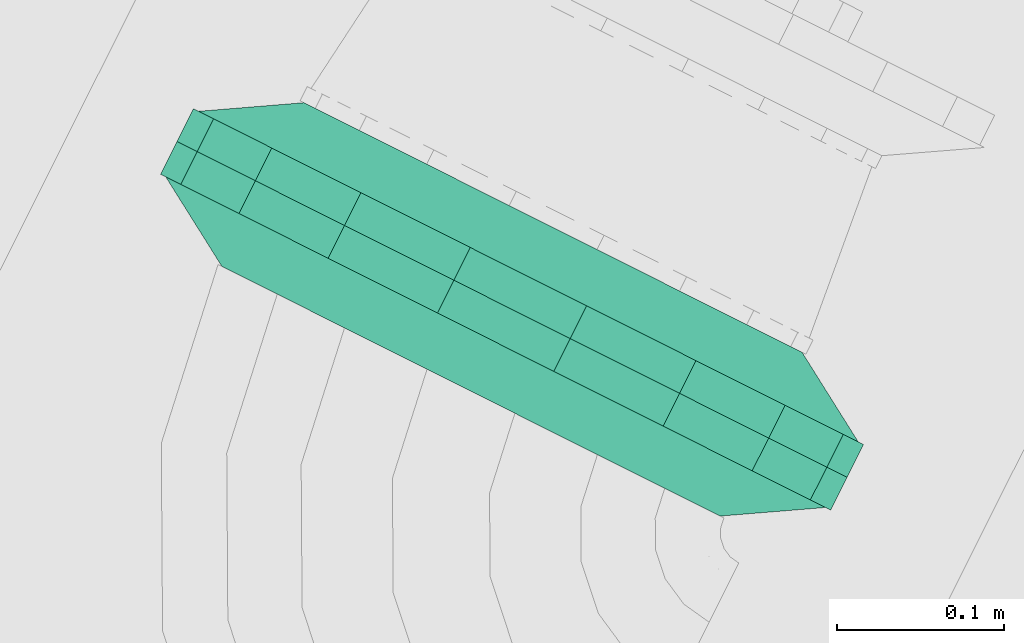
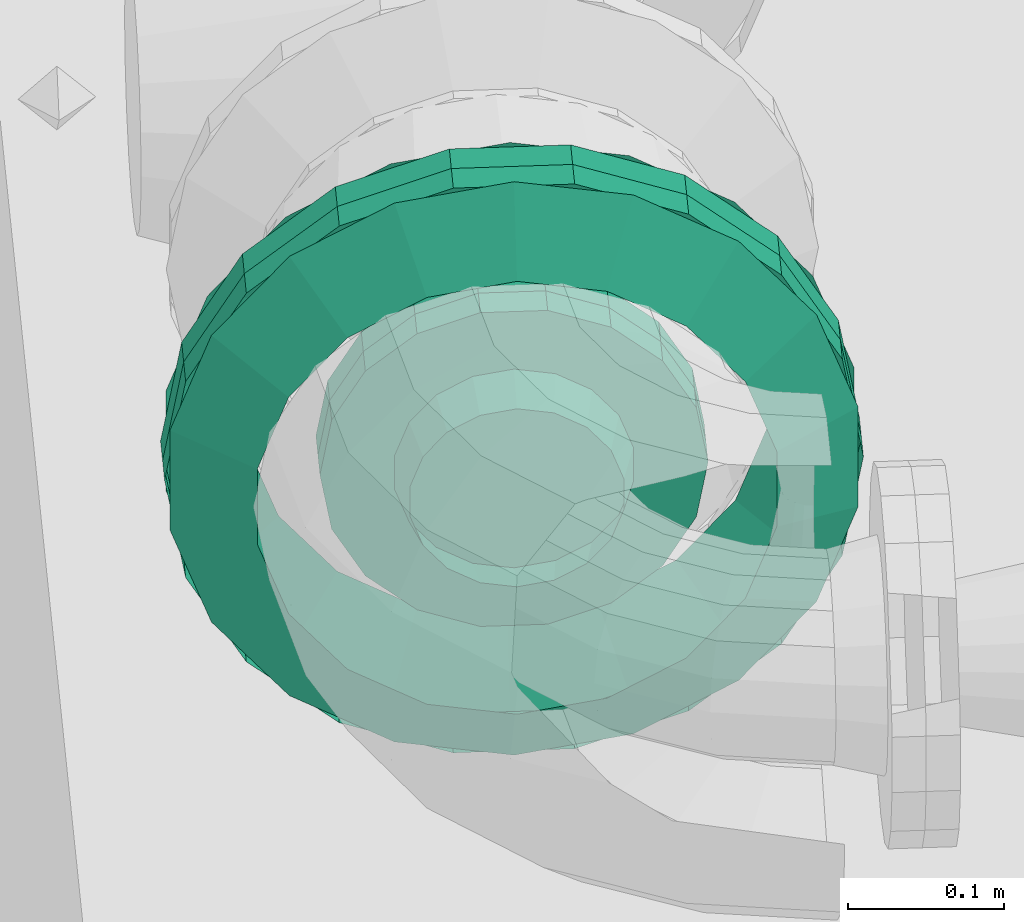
# One storey, part 112 of 206: 2 flow fittings.
"""IFC2X3 building model written with IfcOpenShell, lengths in metres."""

from ifc_helpers import new_model, si_unit, derived_unit, direction, frame, origin, place, context, subcontext, project, spatial, face_set, surface_model, source, transform, mapped, material, type_object, type_shapes, element, save


model = new_model("IFC2X3")

# Units and contexts
model_context = context("Model", 3, precision=5.2338327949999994e-05, world=origin(), true_north=direction((0.0, 1.0)))
body_context = subcontext(model_context, "Body", "Model", "MODEL_VIEW")
ifc_project = project(units=[si_unit("LENGTHUNIT", "METRE"), si_unit("AREAUNIT", "SQUARE_METRE"), si_unit("VOLUMEUNIT", "CUBIC_METRE"), si_unit("MASSUNIT", "GRAM", prefix="KILO"), si_unit("PLANEANGLEUNIT", "RADIAN"), derived_unit("THERMALTRANSMITTANCEUNIT", [(si_unit("MASSUNIT", "GRAM", prefix="KILO"), 1), (si_unit("THERMODYNAMICTEMPERATUREUNIT", "KELVIN"), -1), (si_unit("TIMEUNIT", "SECOND"), -3)])], contexts=[model_context])

# Site, building, storey
site_placement = place(None, frame((0.0, 0.0, 0.0), z_axis=(0.0, 0.0, 1.0), x_axis=(0.8939966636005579, -0.4480736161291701, 0.0)))
site = spatial("IfcSite", under=ifc_project, at=site_placement, Name="Default", CompositionType="ELEMENT")
building_placement = place(site_placement, origin())
building = spatial("IfcBuilding", under=site, at=building_placement, CompositionType="ELEMENT")
storey_placement = place(building_placement, origin())
storey = spatial("IfcBuildingStorey", under=building, at=storey_placement, Name="Erdgeschoss", CompositionType="ELEMENT", Elevation=0.0)

# Flow fittings
ifc_material = material(Name="IfcSurfaceStyle #1741")
distribution_element_type_1 = type_object("IfcDistributionElementType", Name="Flansch 318828:Flansch 318828", material=ifc_material)
shared_shape_1 = source(origin(), body_context, "Body", "SurfaceModel", [
    surface_model("IfcFaceBasedSurfaceModel", [(22.959853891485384, 5.640961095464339, 2.354000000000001), (22.967392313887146, 5.640961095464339, 2.396752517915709), (22.967392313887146, 5.662961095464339, 2.396752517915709), (22.959853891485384, 5.662961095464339, 2.354000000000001), (22.989098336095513, 5.640961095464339, 2.4343484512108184), (22.989098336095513, 5.662961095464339, 2.4343484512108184), (23.02235389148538, 5.640961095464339, 2.4622531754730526), (23.02235389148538, 5.662961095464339, 2.4622531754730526), (23.063147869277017, 5.640961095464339, 2.4771009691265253), (23.063147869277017, 5.662961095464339, 2.4771009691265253), (23.106559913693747, 5.640961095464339, 2.4771009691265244), (23.106559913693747, 5.662961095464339, 2.4771009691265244), (23.147353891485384, 5.640961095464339, 2.4622531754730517), (23.147353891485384, 5.662961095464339, 2.4622531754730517), (23.180609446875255, 5.640961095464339, 2.4343484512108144), (23.180609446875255, 5.662961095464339, 2.4343484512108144), (23.202315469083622, 5.640961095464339, 2.396752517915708), (23.202315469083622, 5.662961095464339, 2.396752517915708), (23.20985389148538, 5.640961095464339, 2.3539999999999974), (23.20985389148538, 5.662961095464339, 2.3539999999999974), (23.202315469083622, 5.640961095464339, 2.3112474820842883), (23.202315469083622, 5.662961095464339, 2.3112474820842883), (23.180609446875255, 5.640961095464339, 2.2736515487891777), (23.180609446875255, 5.662961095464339, 2.2736515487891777), (23.147353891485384, 5.640961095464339, 2.2457468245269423), (23.147353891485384, 5.662961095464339, 2.2457468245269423), (23.106559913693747, 5.640961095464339, 2.2308990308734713), (23.106559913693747, 5.662961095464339, 2.2308990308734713), (23.063147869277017, 5.640961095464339, 2.2308990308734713), (23.063147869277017, 5.662961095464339, 2.2308990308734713), (23.02235389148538, 5.640961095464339, 2.2457468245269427), (23.02235389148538, 5.662961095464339, 2.2457468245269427), (22.989098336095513, 5.640961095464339, 2.273651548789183), (22.989098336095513, 5.662961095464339, 2.273651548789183), (22.967392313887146, 5.640961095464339, 2.3112474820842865), (22.967392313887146, 5.662961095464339, 2.3112474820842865), (23.084853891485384, 5.662961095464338, 2.353999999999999), (23.084853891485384, 5.662961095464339, 2.4319999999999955), (23.111531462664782, 5.662961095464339, 2.427296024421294), (23.108743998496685, 5.695961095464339, 2.419637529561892), (23.084853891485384, 5.69596109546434, 2.423849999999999), (23.134991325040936, 5.66296109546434, 2.4137514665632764), (23.129752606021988, 5.69596109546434, 2.4075082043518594), (23.152403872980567, 5.662961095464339, 2.3929999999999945), (23.145345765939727, 5.695961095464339, 2.388924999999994), (23.16166889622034, 5.662961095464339, 2.3675445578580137), (23.153642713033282, 5.695961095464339, 2.3661293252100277), (23.161668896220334, 5.662961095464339, 2.340455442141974), (23.153642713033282, 5.695961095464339, 2.3418706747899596), (23.152403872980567, 5.662961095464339, 2.3149999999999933), (23.145345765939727, 5.695961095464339, 2.3190749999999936), (23.134991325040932, 5.662961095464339, 2.294248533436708), (23.129752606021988, 5.695961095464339, 2.3004917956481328), (23.111531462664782, 5.662961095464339, 2.280703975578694), (23.10874399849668, 5.695961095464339, 2.2883624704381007), (23.084853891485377, 5.662961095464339, 2.2759999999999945), (23.08485389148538, 5.695961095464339, 2.2841499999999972), (23.058176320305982, 5.662961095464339, 2.2807039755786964), (23.060963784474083, 5.695961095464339, 2.288362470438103), (23.03471645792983, 5.662961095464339, 2.294248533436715), (23.039955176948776, 5.695961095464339, 2.300491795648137), (23.017303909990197, 5.662961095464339, 2.3149999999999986), (23.024362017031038, 5.695961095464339, 2.319074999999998), (23.00803888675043, 5.662961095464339, 2.340455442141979), (23.016065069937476, 5.695961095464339, 2.3418706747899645), (23.00803888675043, 5.662961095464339, 2.367544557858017), (23.016065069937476, 5.695961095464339, 2.3661293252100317), (23.01730390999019, 5.66296109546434, 2.3929999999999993), (23.02436201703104, 5.69596109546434, 2.388924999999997), (23.03471645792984, 5.662961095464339, 2.413751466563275), (23.039955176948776, 5.695961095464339, 2.4075082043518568), (23.058176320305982, 5.662961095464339, 2.4272960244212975), (23.060963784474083, 5.695961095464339, 2.4196375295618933), (22.859853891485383, 5.640961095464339, 2.354000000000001), (22.873423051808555, 5.640961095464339, 2.430954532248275), (22.873423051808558, 5.662961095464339, 2.430954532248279), (22.859853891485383, 5.662961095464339, 2.354000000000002), (22.912493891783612, 5.640961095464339, 2.4986272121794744), (22.912493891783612, 5.662961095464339, 2.4986272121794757), (22.97235389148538, 5.640961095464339, 2.5488557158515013), (22.972353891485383, 5.662961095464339, 2.548855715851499), (23.045783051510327, 5.640961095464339, 2.575581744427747), (23.04578305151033, 5.662961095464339, 2.575581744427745), (23.12392473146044, 5.640961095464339, 2.5755817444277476), (23.123924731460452, 5.662961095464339, 2.5755817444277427), (23.197353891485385, 5.640961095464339, 2.548855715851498), (23.19735389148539, 5.662961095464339, 2.5488557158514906), (23.257213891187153, 5.640961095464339, 2.498627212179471), (23.25721389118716, 5.662961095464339, 2.498627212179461), (23.296284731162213, 5.640961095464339, 2.4309545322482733), (23.296284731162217, 5.662961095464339, 2.4309545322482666), (23.309853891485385, 5.640961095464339, 2.353999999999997), (23.309853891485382, 5.662961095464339, 2.3539999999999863), (23.296284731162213, 5.640961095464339, 2.277045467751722), (23.29628473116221, 5.662961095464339, 2.2770454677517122), (23.257213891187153, 5.640961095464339, 2.209372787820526), (23.257213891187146, 5.662961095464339, 2.209372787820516), (23.197353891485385, 5.640961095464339, 2.1591442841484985), (23.197353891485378, 5.662961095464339, 2.159144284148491), (23.123924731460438, 5.640961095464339, 2.13241825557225), (23.123924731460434, 5.662961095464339, 2.1324182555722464), (23.04578305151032, 5.640961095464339, 2.13241825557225), (23.045783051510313, 5.662961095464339, 2.1324182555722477), (22.972353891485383, 5.640961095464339, 2.1591442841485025), (22.972353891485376, 5.662961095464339, 2.1591442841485), (22.91249389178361, 5.640961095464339, 2.2093727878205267), (22.91249389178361, 5.662961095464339, 2.2093727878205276), (22.873423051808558, 5.640961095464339, 2.2770454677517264), (22.873423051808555, 5.662961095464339, 2.277045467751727), (23.084853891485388, 5.662961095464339, 2.578999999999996), (23.161808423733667, 5.662961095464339, 2.5654308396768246), (23.142946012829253, 5.695961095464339, 2.5136067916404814), (23.084853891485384, 5.695961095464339, 2.523849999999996), (23.229481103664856, 5.662961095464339, 2.526359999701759), (23.194031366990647, 5.695961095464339, 2.484112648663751), (23.279709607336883, 5.662961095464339, 2.4664999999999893), (23.231948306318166, 5.695961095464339, 2.4389249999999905), (23.30643563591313, 5.662961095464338, 2.393070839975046), (23.252123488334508, 5.695961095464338, 2.383494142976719), (23.30643563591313, 5.662961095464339, 2.314929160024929), (23.2521234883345, 5.695961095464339, 2.3245058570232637), (23.27970960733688, 5.662961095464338, 2.2414999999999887), (23.231948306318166, 5.695961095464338, 2.269074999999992), (23.22948110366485, 5.662961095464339, 2.1816400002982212), (23.194031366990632, 5.695961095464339, 2.223887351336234), (23.161808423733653, 5.662961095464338, 2.142569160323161), (23.14294601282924, 5.695961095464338, 2.1943932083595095), (23.084853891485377, 5.662961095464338, 2.128999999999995), (23.084853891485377, 5.695961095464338, 2.184149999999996), (23.007899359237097, 5.662961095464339, 2.142569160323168), (23.026761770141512, 5.695961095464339, 2.194393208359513), (22.9402266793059, 5.662961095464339, 2.181640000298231), (22.97567641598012, 5.695961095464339, 2.22388735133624), (22.889998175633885, 5.662961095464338, 2.2415000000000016), (22.937759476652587, 5.695961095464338, 2.2690750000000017), (22.863272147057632, 5.662961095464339, 2.3149291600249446), (22.917584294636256, 5.695961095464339, 2.3245058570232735), (22.863272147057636, 5.66296109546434, 2.393070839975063), (22.917584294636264, 5.69596109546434, 2.38349414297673), (22.889998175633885, 5.662961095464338, 2.4665000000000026), (22.937759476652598, 5.695961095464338, 2.4389249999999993), (22.940226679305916, 5.662961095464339, 2.52635999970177), (22.975676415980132, 5.695961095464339, 2.4841126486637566), (23.007899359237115, 5.662961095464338, 2.565430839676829), (23.02676177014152, 5.695961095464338, 2.5136067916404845)], [face_set([[[0, 1, 2, 3]], [[1, 4, 5, 2]], [[4, 6, 7, 5]], [[6, 8, 9, 7]], [[8, 10, 11, 9]], [[10, 12, 13, 11]], [[12, 14, 15, 13]], [[14, 16, 17, 15]], [[16, 18, 19, 17]], [[18, 20, 21, 19]], [[20, 22, 23, 21]], [[22, 24, 25, 23]], [[24, 26, 27, 25]], [[26, 28, 29, 27]], [[28, 30, 31, 29]], [[30, 32, 33, 31]], [[32, 34, 35, 33]], [[34, 0, 3, 35]], [[36, 35, 3]], [[36, 33, 35]], [[36, 31, 33]], [[36, 29, 31]], [[36, 27, 29]], [[36, 25, 27]], [[36, 23, 25]], [[36, 21, 23]], [[36, 19, 21]], [[36, 17, 19]], [[36, 15, 17]], [[36, 13, 15]], [[36, 11, 13]], [[36, 9, 11]], [[36, 7, 9]], [[36, 5, 7]], [[36, 2, 5]], [[36, 3, 2]], [[37, 38, 39, 40]], [[38, 41, 42, 39]], [[41, 43, 44, 42]], [[43, 45, 46, 44]], [[45, 47, 48, 46]], [[47, 49, 50, 48]], [[49, 51, 52, 50]], [[51, 53, 54, 52]], [[53, 55, 56, 54]], [[55, 57, 58, 56]], [[57, 59, 60, 58]], [[59, 61, 62, 60]], [[61, 63, 64, 62]], [[63, 65, 66, 64]], [[65, 67, 68, 66]], [[67, 69, 70, 68]], [[69, 71, 72, 70]], [[71, 37, 40, 72]], [[73, 74, 75, 76]], [[74, 77, 78, 75]], [[77, 79, 80, 78]], [[79, 81, 82, 80]], [[81, 83, 84, 82]], [[83, 85, 86, 84]], [[85, 87, 88, 86]], [[87, 89, 90, 88]], [[89, 91, 92, 90]], [[91, 93, 94, 92]], [[93, 95, 96, 94]], [[95, 97, 98, 96]], [[97, 99, 100, 98]], [[99, 101, 102, 100]], [[101, 103, 104, 102]], [[103, 105, 106, 104]], [[105, 107, 108, 106]], [[107, 73, 76, 108]], [[109, 110, 111, 112]], [[110, 113, 114, 111]], [[113, 115, 116, 114]], [[115, 117, 118, 116]], [[117, 119, 120, 118]], [[119, 121, 122, 120]], [[121, 123, 124, 122]], [[123, 125, 126, 124]], [[125, 127, 128, 126]], [[127, 129, 130, 128]], [[129, 131, 132, 130]], [[131, 133, 134, 132]], [[133, 135, 136, 134]], [[135, 137, 138, 136]], [[137, 139, 140, 138]], [[139, 141, 142, 140]], [[141, 143, 144, 142]], [[143, 109, 112, 144]]])]),
])
type_shapes(distribution_element_type_1, [shared_shape_1])
flow_fitting_1_placement = place(storey_placement, origin())
element("IfcFlowFitting", 1, at=flow_fitting_1_placement, inside=storey, type_object=distribution_element_type_1, material=ifc_material, Name="Flansch", ObjectType="Flansch", context=body_context, shape_type="MappedRepresentation", body=[
    mapped(shared_shape_1, transform((0.0, 0.0, 0.0), scale=1.0)),
])
distribution_element_type_2 = type_object("IfcDistributionElementType", Name="Flansch 319928:Flansch 319928", material=ifc_material)
shared_shape_2 = source(origin(), body_context, "Body", "SurfaceModel", [
    surface_model("IfcFaceBasedSurfaceModel", [(22.959853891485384, 5.640961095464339, 2.3539999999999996), (22.967392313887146, 5.640961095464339, 2.311247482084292), (22.967392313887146, 5.618961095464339, 2.311247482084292), (22.959853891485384, 5.618961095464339, 2.3539999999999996), (22.989098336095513, 5.640961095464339, 2.273651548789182), (22.989098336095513, 5.618961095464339, 2.273651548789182), (23.02235389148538, 5.640961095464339, 2.2457468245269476), (23.02235389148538, 5.618961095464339, 2.2457468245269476), (23.063147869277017, 5.640961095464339, 2.2308990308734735), (23.063147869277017, 5.618961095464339, 2.2308990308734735), (23.10655991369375, 5.640961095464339, 2.2308990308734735), (23.10655991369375, 5.618961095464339, 2.2308990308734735), (23.147353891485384, 5.640961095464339, 2.2457468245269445), (23.147353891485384, 5.618961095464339, 2.2457468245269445), (23.18060944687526, 5.640961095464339, 2.2736515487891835), (23.18060944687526, 5.618961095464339, 2.2736515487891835), (23.202315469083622, 5.640961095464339, 2.31124748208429), (23.202315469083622, 5.618961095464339, 2.31124748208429), (23.20985389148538, 5.640961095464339, 2.3539999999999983), (23.20985389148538, 5.618961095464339, 2.3539999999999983), (23.202315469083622, 5.640961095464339, 2.396752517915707), (23.202315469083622, 5.618961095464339, 2.396752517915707), (23.18060944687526, 5.640961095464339, 2.434348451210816), (23.18060944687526, 5.618961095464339, 2.434348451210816), (23.147353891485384, 5.640961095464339, 2.4622531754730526), (23.147353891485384, 5.618961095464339, 2.4622531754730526), (23.106559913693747, 5.640961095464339, 2.4771009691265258), (23.106559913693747, 5.618961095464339, 2.4771009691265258), (23.063147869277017, 5.640961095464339, 2.477100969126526), (23.063147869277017, 5.618961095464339, 2.477100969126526), (23.02235389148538, 5.640961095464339, 2.4622531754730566), (23.02235389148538, 5.618961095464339, 2.4622531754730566), (22.989098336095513, 5.640961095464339, 2.434348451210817), (22.989098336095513, 5.618961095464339, 2.434348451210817), (22.967392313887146, 5.640961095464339, 2.396752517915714), (22.967392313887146, 5.618961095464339, 2.396752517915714), (23.084853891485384, 5.618961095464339, 2.353999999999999), (23.084853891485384, 5.618961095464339, 2.276000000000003), (23.111531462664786, 5.618961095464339, 2.280703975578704), (23.108743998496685, 5.585961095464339, 2.288362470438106), (23.084853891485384, 5.585961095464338, 2.2841500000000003), (23.134991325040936, 5.618961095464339, 2.2942485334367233), (23.12975260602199, 5.585961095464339, 2.30049179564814), (23.152403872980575, 5.618961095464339, 2.3150000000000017), (23.145345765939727, 5.585961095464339, 2.3190750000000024), (23.161668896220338, 5.618961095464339, 2.340455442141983), (23.153642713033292, 5.585961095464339, 2.341870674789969), (23.161668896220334, 5.618961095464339, 2.3675445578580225), (23.153642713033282, 5.585961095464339, 2.366129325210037), (23.152403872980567, 5.618961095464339, 2.3930000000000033), (23.145345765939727, 5.585961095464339, 2.388925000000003), (23.134991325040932, 5.618961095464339, 2.4137514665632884), (23.129752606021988, 5.585961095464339, 2.4075082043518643), (23.111531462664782, 5.618961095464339, 2.4272960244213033), (23.10874399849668, 5.585961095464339, 2.419637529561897), (23.08485389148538, 5.618961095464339, 2.4320000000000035), (23.08485389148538, 5.585961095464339, 2.4238500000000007), (23.058176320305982, 5.618961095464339, 2.4272960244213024), (23.060963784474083, 5.585961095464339, 2.4196375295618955), (23.03471645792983, 5.618961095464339, 2.413751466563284), (23.039955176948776, 5.585961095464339, 2.407508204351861), (23.017303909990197, 5.618961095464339, 2.3930000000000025), (23.02436201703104, 5.585961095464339, 2.3889250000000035), (23.00803888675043, 5.618961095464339, 2.367544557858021), (23.016065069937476, 5.585961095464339, 2.3661293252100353), (23.00803888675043, 5.618961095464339, 2.340455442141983), (23.016065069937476, 5.585961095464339, 2.341870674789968), (23.01730390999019, 5.618961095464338, 2.3150000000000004), (23.02436201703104, 5.585961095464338, 2.319075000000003), (23.03471645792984, 5.61896109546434, 2.2942485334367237), (23.039955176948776, 5.585961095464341, 2.3004917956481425), (23.058176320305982, 5.618961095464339, 2.2807039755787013), (23.060963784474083, 5.585961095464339, 2.2883624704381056), (22.859853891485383, 5.640961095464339, 2.354000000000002), (22.873423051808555, 5.640961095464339, 2.277045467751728), (22.873423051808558, 5.618961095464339, 2.2770454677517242), (22.859853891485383, 5.618961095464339, 2.354000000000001), (22.912493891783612, 5.640961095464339, 2.209372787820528), (22.912493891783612, 5.618961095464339, 2.2093727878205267), (22.97235389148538, 5.640961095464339, 2.1591442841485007), (22.972353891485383, 5.618961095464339, 2.1591442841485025), (23.045783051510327, 5.640961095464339, 2.132418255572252), (23.04578305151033, 5.618961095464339, 2.132418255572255), (23.12392473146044, 5.640961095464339, 2.132418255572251), (23.123924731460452, 5.618961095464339, 2.1324182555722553), (23.197353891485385, 5.640961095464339, 2.1591442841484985), (23.19735389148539, 5.618961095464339, 2.1591442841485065), (23.257213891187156, 5.640961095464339, 2.2093727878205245), (23.25721389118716, 5.618961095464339, 2.2093727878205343), (23.296284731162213, 5.640961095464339, 2.277045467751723), (23.296284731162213, 5.618961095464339, 2.2770454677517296), (23.309853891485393, 5.640961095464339, 2.353999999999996), (23.309853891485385, 5.618961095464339, 2.3540000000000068), (23.29628473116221, 5.640961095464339, 2.4309545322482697), (23.29628473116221, 5.618961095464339, 2.43095453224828), (23.257213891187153, 5.640961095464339, 2.498627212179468), (23.257213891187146, 5.618961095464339, 2.4986272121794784), (23.197353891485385, 5.640961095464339, 2.548855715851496), (23.197353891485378, 5.618961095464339, 2.5488557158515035), (23.123924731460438, 5.640961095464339, 2.575581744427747), (23.123924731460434, 5.618961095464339, 2.5755817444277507), (23.04578305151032, 5.640961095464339, 2.5755817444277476), (23.045783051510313, 5.618961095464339, 2.5755817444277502), (22.972353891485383, 5.640961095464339, 2.548855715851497), (22.972353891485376, 5.618961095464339, 2.5488557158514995), (22.91249389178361, 5.640961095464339, 2.4986272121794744), (22.91249389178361, 5.618961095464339, 2.4986272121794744), (22.873423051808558, 5.640961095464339, 2.430954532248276), (22.873423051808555, 5.618961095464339, 2.430954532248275), (23.084853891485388, 5.618961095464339, 2.129000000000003), (23.161808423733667, 5.618961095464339, 2.142569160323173), (23.142946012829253, 5.585961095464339, 2.1943932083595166), (23.084853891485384, 5.585961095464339, 2.184150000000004), (23.229481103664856, 5.618961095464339, 2.1816400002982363), (23.194031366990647, 5.585961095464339, 2.223887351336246), (23.279709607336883, 5.618961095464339, 2.241500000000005), (23.231948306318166, 5.585961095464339, 2.269075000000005), (23.306435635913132, 5.61896109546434, 2.314929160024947), (23.252123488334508, 5.585961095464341, 2.3245058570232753), (23.30643563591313, 5.61896109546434, 2.393070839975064), (23.2521234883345, 5.585961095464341, 2.383494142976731), (23.27970960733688, 5.61896109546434, 2.4665000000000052), (23.231948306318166, 5.585961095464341, 2.438925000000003), (23.22948110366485, 5.618961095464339, 2.526359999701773), (23.194031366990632, 5.585961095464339, 2.4841126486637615), (23.161808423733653, 5.618961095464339, 2.565430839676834), (23.142946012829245, 5.585961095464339, 2.5136067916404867), (23.084853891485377, 5.618961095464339, 2.5790000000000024), (23.084853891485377, 5.585961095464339, 2.523850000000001), (23.007899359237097, 5.618961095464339, 2.565430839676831), (23.026761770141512, 5.585961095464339, 2.513606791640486), (22.9402266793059, 5.618961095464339, 2.52635999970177), (22.97567641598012, 5.585961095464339, 2.4841126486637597), (22.889998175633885, 5.618961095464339, 2.4665000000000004), (22.937759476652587, 5.585961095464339, 2.4389249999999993), (22.863272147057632, 5.618961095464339, 2.393070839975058), (22.917584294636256, 5.585961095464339, 2.383494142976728), (22.863272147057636, 5.618961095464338, 2.3149291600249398), (22.917584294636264, 5.585961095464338, 2.324505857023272), (22.889998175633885, 5.61896109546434, 2.2415000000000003), (22.937759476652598, 5.585961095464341, 2.269075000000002), (22.940226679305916, 5.618961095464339, 2.1816400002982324), (22.975676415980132, 5.585961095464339, 2.2238873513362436), (23.007899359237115, 5.61896109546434, 2.142569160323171), (23.02676177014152, 5.585961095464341, 2.1943932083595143)], [face_set([[[0, 1, 2, 3]], [[1, 4, 5, 2]], [[4, 6, 7, 5]], [[6, 8, 9, 7]], [[8, 10, 11, 9]], [[10, 12, 13, 11]], [[12, 14, 15, 13]], [[14, 16, 17, 15]], [[16, 18, 19, 17]], [[18, 20, 21, 19]], [[20, 22, 23, 21]], [[22, 24, 25, 23]], [[24, 26, 27, 25]], [[26, 28, 29, 27]], [[28, 30, 31, 29]], [[30, 32, 33, 31]], [[32, 34, 35, 33]], [[34, 0, 3, 35]], [[36, 35, 3]], [[36, 33, 35]], [[36, 31, 33]], [[36, 29, 31]], [[36, 27, 29]], [[36, 25, 27]], [[36, 23, 25]], [[36, 21, 23]], [[36, 19, 21]], [[36, 17, 19]], [[36, 15, 17]], [[36, 13, 15]], [[36, 11, 13]], [[36, 9, 11]], [[36, 7, 9]], [[36, 5, 7]], [[36, 2, 5]], [[36, 3, 2]], [[37, 38, 39, 40]], [[38, 41, 42, 39]], [[41, 43, 44, 42]], [[43, 45, 46, 44]], [[45, 47, 48, 46]], [[47, 49, 50, 48]], [[49, 51, 52, 50]], [[51, 53, 54, 52]], [[53, 55, 56, 54]], [[55, 57, 58, 56]], [[57, 59, 60, 58]], [[59, 61, 62, 60]], [[61, 63, 64, 62]], [[63, 65, 66, 64]], [[65, 67, 68, 66]], [[67, 69, 70, 68]], [[69, 71, 72, 70]], [[71, 37, 40, 72]], [[73, 74, 75, 76]], [[74, 77, 78, 75]], [[77, 79, 80, 78]], [[79, 81, 82, 80]], [[81, 83, 84, 82]], [[83, 85, 86, 84]], [[85, 87, 88, 86]], [[87, 89, 90, 88]], [[89, 91, 92, 90]], [[91, 93, 94, 92]], [[93, 95, 96, 94]], [[95, 97, 98, 96]], [[97, 99, 100, 98]], [[99, 101, 102, 100]], [[101, 103, 104, 102]], [[103, 105, 106, 104]], [[105, 107, 108, 106]], [[107, 73, 76, 108]], [[109, 110, 111, 112]], [[110, 113, 114, 111]], [[113, 115, 116, 114]], [[115, 117, 118, 116]], [[117, 119, 120, 118]], [[119, 121, 122, 120]], [[121, 123, 124, 122]], [[123, 125, 126, 124]], [[125, 127, 128, 126]], [[127, 129, 130, 128]], [[129, 131, 132, 130]], [[131, 133, 134, 132]], [[133, 135, 136, 134]], [[135, 137, 138, 136]], [[137, 139, 140, 138]], [[139, 141, 142, 140]], [[141, 143, 144, 142]], [[143, 109, 112, 144]]])]),
])
type_shapes(distribution_element_type_2, [shared_shape_2])
flow_fitting_2_placement = place(storey_placement, origin())
element("IfcFlowFitting", 2, at=flow_fitting_2_placement, inside=storey, type_object=distribution_element_type_2, material=ifc_material, Name="Flansch", ObjectType="Flansch", context=body_context, shape_type="MappedRepresentation", body=[
    mapped(shared_shape_2, transform((0.0, 0.0, 0.0), scale=1.0)),
])

save(model, "model.ifc")
